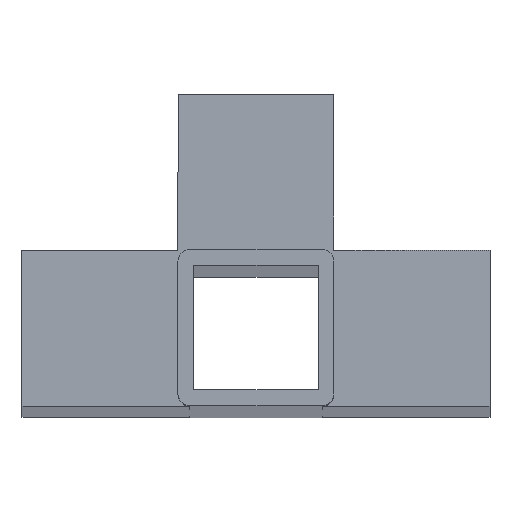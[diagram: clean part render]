
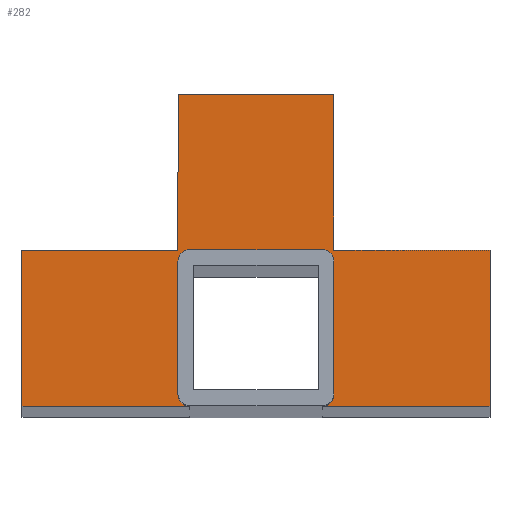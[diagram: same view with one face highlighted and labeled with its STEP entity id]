
A CAD part, top view. The second image highlights one B-rep face of the part: STEP entity #282.
In plain terms, the highlighted planar face has unit normal (0, 0, 1).
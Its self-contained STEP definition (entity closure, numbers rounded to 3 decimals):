
#4 = ORIENTED_EDGE ( 'NONE', *, *, #23, .T. ) ;
#23 = EDGE_CURVE ( 'NONE', #480, #571, #379, .T. ) ;
#27 = DIRECTION ( 'NONE',  ( 0., -1., 0. ) ) ;
#35 = CARTESIAN_POINT ( 'NONE',  ( 60., -20., 800. ) ) ;
#49 = EDGE_CURVE ( 'NONE', #852, #121, #224, .T. ) ;
#67 = VERTEX_POINT ( 'NONE', #1065 ) ;
#83 = VECTOR ( 'NONE', #1381, 1000. ) ;
#121 = VERTEX_POINT ( 'NONE', #316 ) ;
#151 = EDGE_CURVE ( 'NONE', #648, #231, #1510, .T. ) ;
#177 = VECTOR ( 'NONE', #182, 1000. ) ;
#182 = DIRECTION ( 'NONE',  ( 0., -1., 0. ) ) ;
#190 = CARTESIAN_POINT ( 'NONE',  ( 0., 20., 800. ) ) ;
#193 = AXIS2_PLACEMENT_3D ( 'NONE', #209, #1090, #458 ) ;
#205 = CARTESIAN_POINT ( 'NONE',  ( 20., -17., 800. ) ) ;
#209 = CARTESIAN_POINT ( 'NONE',  ( 17., -17., 800. ) ) ;
#224 = LINE ( 'NONE', #447, #1429 ) ;
#225 = AXIS2_PLACEMENT_3D ( 'NONE', #1604, #1248, #362 ) ;
#231 = VERTEX_POINT ( 'NONE', #1249 ) ;
#246 = DIRECTION ( 'NONE',  ( -1., 0., 0. ) ) ;
#249 = ORIENTED_EDGE ( 'NONE', *, *, #632, .F. ) ;
#252 = ORIENTED_EDGE ( 'NONE', *, *, #508, .F. ) ;
#253 = VERTEX_POINT ( 'NONE', #1120 ) ;
#255 = AXIS2_PLACEMENT_3D ( 'NONE', #627, #395, #1253 ) ;
#259 = VECTOR ( 'NONE', #659, 1000. ) ;
#282 = ADVANCED_FACE ( 'NONE', ( #696 ), #1129, .T. ) ;
#299 = DIRECTION ( 'NONE',  ( 1., 0., 0. ) ) ;
#316 = CARTESIAN_POINT ( 'NONE',  ( -20., 60., 800. ) ) ;
#323 = ORIENTED_EDGE ( 'NONE', *, *, #976, .F. ) ;
#343 = VERTEX_POINT ( 'NONE', #1558 ) ;
#362 = DIRECTION ( 'NONE',  ( 1., 0., 0. ) ) ;
#364 = CARTESIAN_POINT ( 'NONE',  ( 0., 20., 800. ) ) ;
#366 = ORIENTED_EDGE ( 'NONE', *, *, #49, .F. ) ;
#373 = DIRECTION ( 'NONE',  ( 0., 0., -1. ) ) ;
#375 = CARTESIAN_POINT ( 'NONE',  ( 0., -20., 800. ) ) ;
#377 = LINE ( 'NONE', #790, #259 ) ;
#378 = EDGE_CURVE ( 'NONE', #483, #571, #405, .T. ) ;
#379 = LINE ( 'NONE', #695, #686 ) ;
#384 = ORIENTED_EDGE ( 'NONE', *, *, #1492, .T. ) ;
#395 = DIRECTION ( 'NONE',  ( 0., 0., 1. ) ) ;
#396 = CIRCLE ( 'NONE', #1334, 3. ) ;
#402 = VECTOR ( 'NONE', #27, 1000. ) ;
#405 = CIRCLE ( 'NONE', #193, 3. ) ;
#409 = EDGE_LOOP ( 'NONE', ( #756, #1244, #384, #4, #1498, #1234, #323, #252, #1054, #249, #366, #1218, #773, #586, #1073, #1265 ) ) ;
#419 = CARTESIAN_POINT ( 'NONE',  ( 20., 17., 800. ) ) ;
#430 = DIRECTION ( 'NONE',  ( 1., 0., 0. ) ) ;
#447 = CARTESIAN_POINT ( 'NONE',  ( -20., 0., 800. ) ) ;
#458 = DIRECTION ( 'NONE',  ( 1., 0., 0. ) ) ;
#461 = DIRECTION ( 'NONE',  ( 1., 0., 0. ) ) ;
#470 = DIRECTION ( 'NONE',  ( 0., 0., 1. ) ) ;
#476 = LINE ( 'NONE', #1047, #1066 ) ;
#480 = VERTEX_POINT ( 'NONE', #419 ) ;
#483 = VERTEX_POINT ( 'NONE', #684 ) ;
#508 = EDGE_CURVE ( 'NONE', #67, #738, #971, .T. ) ;
#522 = LINE ( 'NONE', #375, #1481 ) ;
#548 = CARTESIAN_POINT ( 'NONE',  ( -60., 20., 800. ) ) ;
#550 = VERTEX_POINT ( 'NONE', #697 ) ;
#567 = CIRCLE ( 'NONE', #1369, 3. ) ;
#571 = VERTEX_POINT ( 'NONE', #205 ) ;
#573 = DIRECTION ( 'NONE',  ( 0., 1., 0. ) ) ;
#586 = ORIENTED_EDGE ( 'NONE', *, *, #1257, .F. ) ;
#617 = CARTESIAN_POINT ( 'NONE',  ( 17., 17., 800. ) ) ;
#627 = CARTESIAN_POINT ( 'NONE',  ( 0., 0., 800. ) ) ;
#632 = EDGE_CURVE ( 'NONE', #121, #1599, #915, .T. ) ;
#648 = VERTEX_POINT ( 'NONE', #812 ) ;
#659 = DIRECTION ( 'NONE',  ( 0., 1., 0. ) ) ;
#684 = CARTESIAN_POINT ( 'NONE',  ( 17., -20., 800. ) ) ;
#686 = VECTOR ( 'NONE', #1311, 1000. ) ;
#695 = CARTESIAN_POINT ( 'NONE',  ( 20., 0., 800. ) ) ;
#696 = FACE_OUTER_BOUND ( 'NONE', #409, .T. ) ;
#697 = CARTESIAN_POINT ( 'NONE',  ( -20., -17., 800. ) ) ;
#703 = CARTESIAN_POINT ( 'NONE',  ( 0., 60., 800. ) ) ;
#729 = LINE ( 'NONE', #1003, #402 ) ;
#737 = EDGE_CURVE ( 'NONE', #550, #343, #567, .T. ) ;
#738 = VERTEX_POINT ( 'NONE', #1472 ) ;
#745 = DIRECTION ( 'NONE',  ( 1., 0., 0. ) ) ;
#756 = ORIENTED_EDGE ( 'NONE', *, *, #867, .F. ) ;
#773 = ORIENTED_EDGE ( 'NONE', *, *, #1233, .F. ) ;
#777 = LINE ( 'NONE', #1363, #83 ) ;
#790 = CARTESIAN_POINT ( 'NONE',  ( -60., 0., 800. ) ) ;
#812 = CARTESIAN_POINT ( 'NONE',  ( -17., 20., 800. ) ) ;
#829 = EDGE_CURVE ( 'NONE', #1410, #483, #522, .T. ) ;
#852 = VERTEX_POINT ( 'NONE', #1502 ) ;
#855 = CARTESIAN_POINT ( 'NONE',  ( 20., 60., 800. ) ) ;
#858 = LINE ( 'NONE', #1026, #177 ) ;
#867 = EDGE_CURVE ( 'NONE', #648, #253, #1200, .T. ) ;
#890 = EDGE_CURVE ( 'NONE', #253, #550, #777, .T. ) ;
#915 = LINE ( 'NONE', #703, #941 ) ;
#941 = VECTOR ( 'NONE', #299, 1000. ) ;
#971 = LINE ( 'NONE', #190, #1436 ) ;
#976 = EDGE_CURVE ( 'NONE', #738, #1410, #729, .T. ) ;
#995 = DIRECTION ( 'NONE',  ( 1., 0., 0. ) ) ;
#1003 = CARTESIAN_POINT ( 'NONE',  ( 60., 0., 800. ) ) ;
#1021 = VECTOR ( 'NONE', #995, 1000. ) ;
#1026 = CARTESIAN_POINT ( 'NONE',  ( 20., 0., 800. ) ) ;
#1038 = VERTEX_POINT ( 'NONE', #1511 ) ;
#1047 = CARTESIAN_POINT ( 'NONE',  ( 0., -20., 800. ) ) ;
#1054 = ORIENTED_EDGE ( 'NONE', *, *, #1371, .F. ) ;
#1062 = LINE ( 'NONE', #364, #1021 ) ;
#1065 = CARTESIAN_POINT ( 'NONE',  ( 20., 20., 800. ) ) ;
#1066 = VECTOR ( 'NONE', #1150, 1000. ) ;
#1073 = ORIENTED_EDGE ( 'NONE', *, *, #737, .F. ) ;
#1090 = DIRECTION ( 'NONE',  ( 0., 0., 1. ) ) ;
#1120 = CARTESIAN_POINT ( 'NONE',  ( -20., 17., 800. ) ) ;
#1129 = PLANE ( 'NONE',  #255 ) ;
#1150 = DIRECTION ( 'NONE',  ( -1., 0., 0. ) ) ;
#1177 = VERTEX_POINT ( 'NONE', #548 ) ;
#1200 = CIRCLE ( 'NONE', #225, 3. ) ;
#1218 = ORIENTED_EDGE ( 'NONE', *, *, #1466, .F. ) ;
#1233 = EDGE_CURVE ( 'NONE', #1038, #1177, #377, .T. ) ;
#1234 = ORIENTED_EDGE ( 'NONE', *, *, #829, .F. ) ;
#1244 = ORIENTED_EDGE ( 'NONE', *, *, #151, .T. ) ;
#1248 = DIRECTION ( 'NONE',  ( 0., 0., 1. ) ) ;
#1249 = CARTESIAN_POINT ( 'NONE',  ( 17., 20., 800. ) ) ;
#1253 = DIRECTION ( 'NONE',  ( 1., 0., 0. ) ) ;
#1257 = EDGE_CURVE ( 'NONE', #343, #1038, #476, .T. ) ;
#1265 = ORIENTED_EDGE ( 'NONE', *, *, #890, .F. ) ;
#1311 = DIRECTION ( 'NONE',  ( 0., -1., 0. ) ) ;
#1317 = DIRECTION ( 'NONE',  ( 1., 0., 0. ) ) ;
#1334 = AXIS2_PLACEMENT_3D ( 'NONE', #617, #373, #745 ) ;
#1343 = CARTESIAN_POINT ( 'NONE',  ( 0., 20., 800. ) ) ;
#1363 = CARTESIAN_POINT ( 'NONE',  ( -20., 0., 800. ) ) ;
#1369 = AXIS2_PLACEMENT_3D ( 'NONE', #1582, #470, #461 ) ;
#1371 = EDGE_CURVE ( 'NONE', #1599, #67, #858, .T. ) ;
#1381 = DIRECTION ( 'NONE',  ( 0., -1., 0. ) ) ;
#1410 = VERTEX_POINT ( 'NONE', #35 ) ;
#1429 = VECTOR ( 'NONE', #573, 1000. ) ;
#1436 = VECTOR ( 'NONE', #430, 1000. ) ;
#1447 = VECTOR ( 'NONE', #1317, 1000. ) ;
#1466 = EDGE_CURVE ( 'NONE', #1177, #852, #1062, .T. ) ;
#1472 = CARTESIAN_POINT ( 'NONE',  ( 60., 20., 800. ) ) ;
#1481 = VECTOR ( 'NONE', #246, 1000. ) ;
#1492 = EDGE_CURVE ( 'NONE', #231, #480, #396, .T. ) ;
#1498 = ORIENTED_EDGE ( 'NONE', *, *, #378, .F. ) ;
#1502 = CARTESIAN_POINT ( 'NONE',  ( -20., 20., 800. ) ) ;
#1510 = LINE ( 'NONE', #1343, #1447 ) ;
#1511 = CARTESIAN_POINT ( 'NONE',  ( -60., -20., 800. ) ) ;
#1558 = CARTESIAN_POINT ( 'NONE',  ( -17., -20., 800. ) ) ;
#1582 = CARTESIAN_POINT ( 'NONE',  ( -17., -17., 800. ) ) ;
#1599 = VERTEX_POINT ( 'NONE', #855 ) ;
#1604 = CARTESIAN_POINT ( 'NONE',  ( -17., 17., 800. ) ) ;
